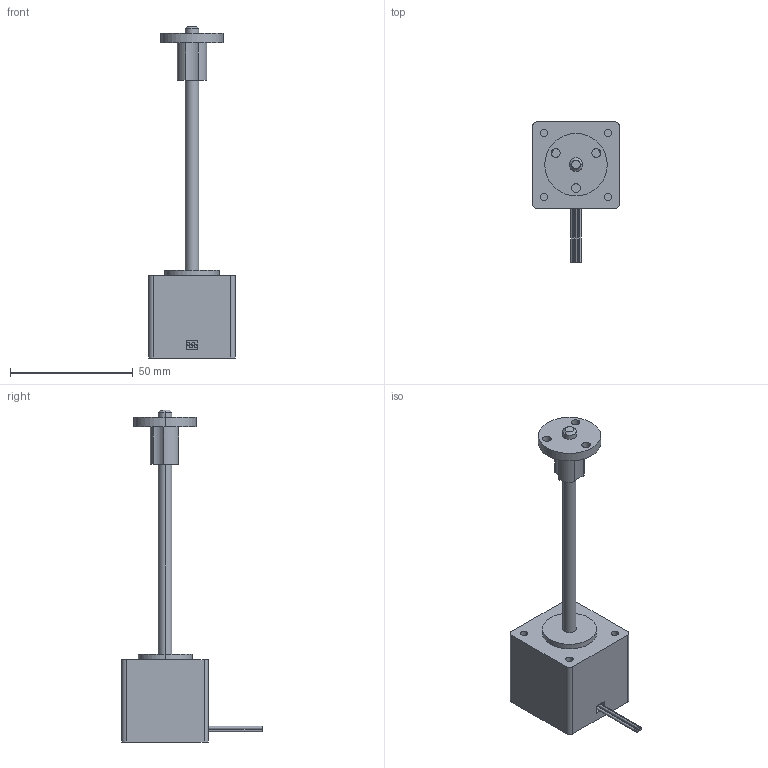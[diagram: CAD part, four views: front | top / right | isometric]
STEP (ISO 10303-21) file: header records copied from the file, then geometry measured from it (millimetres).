
FILE_DESCRIPTION (( 'STEP AP214' ), '1' );
FILE_NAME ('AMETEK-E35H4N-2.33-4-12.STEP', '2022-02-28T12:08:53', ( '' ), ( '' ), 'SwSTEP 2.0', 'SolidWorks 2021', '' );
FILE_SCHEMA (( 'AUTOMOTIVE_DESIGN' ));
Length unit declared in the file: inch
Products named in the file (3): AMETEK-E35H4N-2.33-4-12; 35000_External_Linear_Nut; 35000_External_Linear_None
Assembly tree (2 placements, depth 2):
  AMETEK-E35H4N-2.33-4-12
    35000_External_Linear_None
    35000_External_Linear_Nut
Bounding box: 35.2 x 57.02 x 134.96 mm (x, y, z)
Volume: 46497.5 mm3; surface area: 12355.3 mm2
Topology: 2 solids, 2 shells, 74 faces, 166 edges, 110 vertices
Faces by surface type: cylinder 46, plane 26, cone 2
Entity records: 2807 total; most frequent: DIRECTION 418, CARTESIAN_POINT 355, ORIENTED_EDGE 332, AXIS2_PLACEMENT_3D 173, EDGE_CURVE 166, VERTEX_POINT 110, EDGE_LOOP 96, CIRCLE 94
